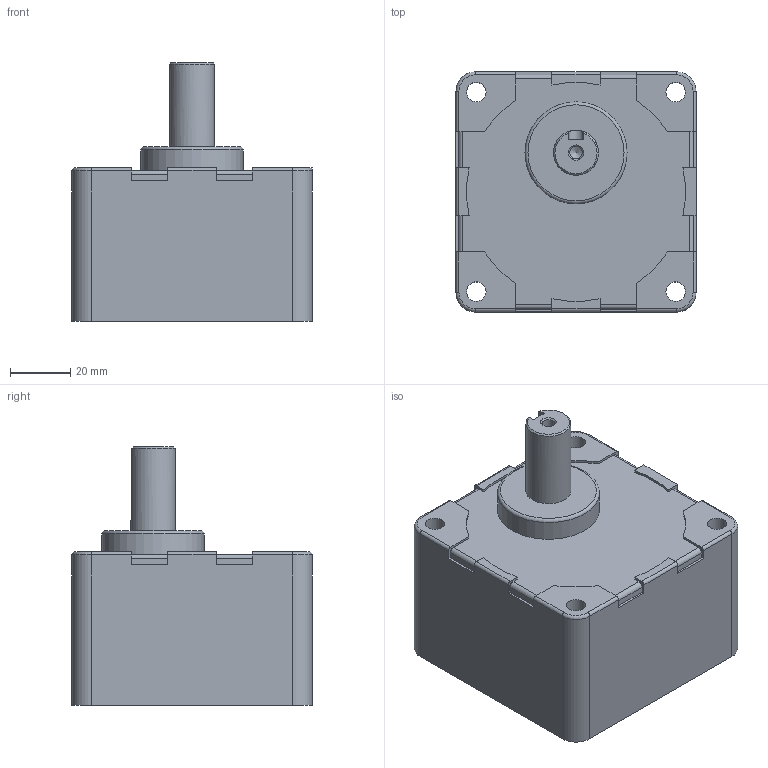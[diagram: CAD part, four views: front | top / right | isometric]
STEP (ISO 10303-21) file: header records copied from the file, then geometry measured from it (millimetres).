
FILE_DESCRIPTION(/* description */ (''),/* implementation_level */ '2;1');
FILE_NAME(/* name */ 'E:\도면작업\2016\0704) 미주향 SG 도면\3D GEAR HEAD\SG8KA150~360.stp',/* time_stamp */ '2016-07-22T14:03:18+09:00',/* author */ ('jy-jung'),/* organization */ (''),/* preprocessor_version */ 'ST-DEVELOPER v15.6',/* originating_system */ 'Autodesk Inventor 2015',/* authorisation */ '');
FILE_SCHEMA (('AUTOMOTIVE_DESIGN { 1 0 10303 214 3 1 1 }'));
Length unit declared in the file: millimetre
Products named in the file (1): SG8KA150~360
Bounding box: 80 x 80 x 86 mm (x, y, z)
Volume: 314536.6 mm3; surface area: 35621.8 mm2
Topology: 1 solids, 1 shells, 104 faces, 282 edges, 184 vertices
Faces by surface type: plane 53, cylinder 41, cone 5, torus 5
Full cylindrical faces by diameter (mm): 4.134 x1, 6.5 x4, 7.5 x1, 15 x1, 34 x1, 73 x1
Entity records: 3244 total; most frequent: CARTESIAN_POINT 575, DIRECTION 562, ORIENTED_EDGE 532, EDGE_CURVE 266, AXIS2_PLACEMENT_3D 195, VERTEX_POINT 182, LINE 172, VECTOR 172
